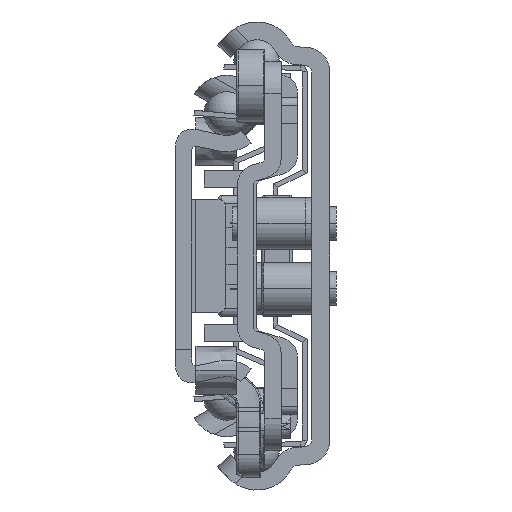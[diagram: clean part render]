
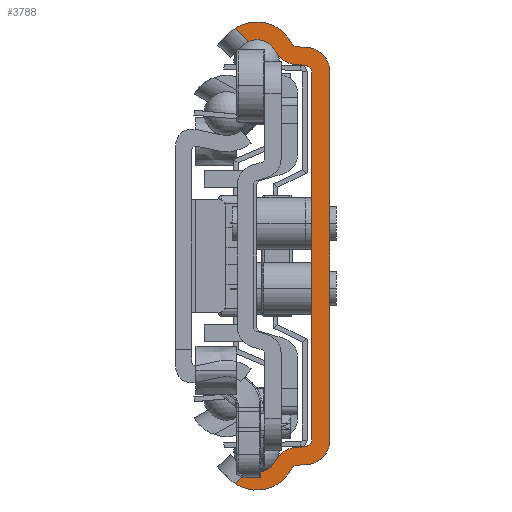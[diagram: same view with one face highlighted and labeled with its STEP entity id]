
A CAD part, left-side view. The second image highlights one B-rep face of the part: STEP entity #3788.
In plain terms, the highlighted planar face has unit normal (-1, 0, 0).
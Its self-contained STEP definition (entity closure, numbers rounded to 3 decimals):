
#1=DIRECTION('',(0.,0.717,-0.697));
#2=VECTOR('',#1,2.305);
#3=CARTESIAN_POINT('',(-200.,9.972,-26.461));
#4=LINE('',#3,#2);
#5=CARTESIAN_POINT('',(-200.,9.,-24.05));
#6=DIRECTION('',(-1.,0.,0.));
#7=DIRECTION('',(0.,0.374,-0.927));
#8=AXIS2_PLACEMENT_3D('',#5,#6,#7);
#10=CARTESIAN_POINT('',(-200.,4.005,-26.582));
#11=DIRECTION('',(-1.,0.,0.));
#12=DIRECTION('',(0.,0.07,0.998));
#13=AXIS2_PLACEMENT_3D('',#10,#11,#12);
#15=DIRECTION('',(0.,-0.998,0.07));
#16=VECTOR('',#15,1.087);
#17=CARTESIAN_POINT('',(-200.,4.214,-23.589));
#18=LINE('',#17,#16);
#19=DIRECTION('',(0.,0.,1.));
#20=VECTOR('',#19,45.032);
#21=CARTESIAN_POINT('',(-200.,2.2,-22.516));
#22=LINE('',#21,#20);
#23=DIRECTION('',(0.,0.998,0.07));
#24=VECTOR('',#23,1.087);
#25=CARTESIAN_POINT('',(-200.,3.13,23.514));
#26=LINE('',#25,#24);
#27=CARTESIAN_POINT('',(-200.,4.005,26.582));
#28=DIRECTION('',(-1.,0.,0.));
#29=DIRECTION('',(0.,0.892,-0.452));
#30=AXIS2_PLACEMENT_3D('',#27,#28,#29);
#32=CARTESIAN_POINT('',(-200.,9.,24.05));
#33=DIRECTION('',(-1.,0.,0.));
#34=DIRECTION('',(0.,-0.892,0.452));
#35=AXIS2_PLACEMENT_3D('',#32,#33,#34);
#37=DIRECTION('',(0.,-0.717,-0.697));
#38=VECTOR('',#37,2.305);
#39=CARTESIAN_POINT('',(-200.,11.624,28.069));
#40=LINE('',#39,#38);
#41=CARTESIAN_POINT('',(-200.,9.,24.05));
#42=DIRECTION('',(1.,0.,0.));
#43=DIRECTION('',(0.,0.547,0.837));
#44=AXIS2_PLACEMENT_3D('',#41,#42,#43);
#46=DIRECTION('',(0.,-0.998,-0.07));
#47=VECTOR('',#46,1.161);
#48=CARTESIAN_POINT('',(-200.,3.949,25.776));
#49=LINE('',#48,#47);
#50=CARTESIAN_POINT('',(-200.,3.,22.702));
#51=DIRECTION('',(-1.,0.,0.));
#52=DIRECTION('',(0.,-1.,0.));
#53=AXIS2_PLACEMENT_3D('',#50,#51,#52);
#55=DIRECTION('',(0.,0.,-1.));
#56=VECTOR('',#55,45.405);
#57=CARTESIAN_POINT('',(-200.,0.,22.702));
#58=LINE('',#57,#56);
#59=CARTESIAN_POINT('',(-200.,3.,-22.702));
#60=DIRECTION('',(-1.,0.,0.));
#61=DIRECTION('',(0.,-0.07,-0.998));
#62=AXIS2_PLACEMENT_3D('',#59,#60,#61);
#64=DIRECTION('',(0.,0.998,-0.07));
#65=VECTOR('',#64,1.161);
#66=CARTESIAN_POINT('',(-200.,2.791,-25.695));
#67=LINE('',#66,#65);
#68=CARTESIAN_POINT('',(-200.,9.,-24.05));
#69=DIRECTION('',(1.,0.,0.));
#70=DIRECTION('',(0.,-0.883,-0.47));
#71=AXIS2_PLACEMENT_3D('',#68,#69,#70);
#79=CARTESIAN_POINT('',(-200.,11.624,-28.069));
#103=CARTESIAN_POINT('',(-200.,9.972,-26.461));
#195=CARTESIAN_POINT('',(-200.,11.624,28.069));
#201=CARTESIAN_POINT('',(-200.,3.879,26.774));
#202=DIRECTION('',(1.,0.,0.));
#203=DIRECTION('',(0.,0.07,-0.998));
#204=AXIS2_PLACEMENT_3D('',#201,#202,#203);
#903=CARTESIAN_POINT('',(-200.,3.879,-26.774));
#904=DIRECTION('',(1.,0.,0.));
#905=DIRECTION('',(0.,0.883,0.47));
#906=AXIS2_PLACEMENT_3D('',#903,#904,#905);
#1674=CARTESIAN_POINT('',(-200.,3.2,-22.516));
#1675=DIRECTION('',(1.,0.,0.));
#1676=DIRECTION('',(0.,-1.,0.));
#1677=AXIS2_PLACEMENT_3D('',#1674,#1675,#1676);
#1692=CARTESIAN_POINT('',(-200.,3.2,22.516));
#1693=DIRECTION('',(1.,0.,0.));
#1694=DIRECTION('',(0.,-0.07,0.998));
#1695=AXIS2_PLACEMENT_3D('',#1692,#1693,#1694);
#1716=CARTESIAN_POINT('',(-200.,9.972,26.461));
#2957=CARTESIAN_POINT('',(-200.,2.2,-22.516));
#2959=VERTEX_POINT('',#2957);
#2961=CARTESIAN_POINT('',(-200.,3.13,-23.514));
#2963=VERTEX_POINT('',#2961);
#2965=CARTESIAN_POINT('',(-200.,3.13,23.514));
#2967=VERTEX_POINT('',#2965);
#2969=CARTESIAN_POINT('',(-200.,2.2,22.516));
#2971=VERTEX_POINT('',#2969);
#2973=CARTESIAN_POINT('',(-200.,3.949,25.776));
#2975=VERTEX_POINT('',#2973);
#2977=CARTESIAN_POINT('',(-200.,4.762,26.304));
#2979=VERTEX_POINT('',#2977);
#2981=CARTESIAN_POINT('',(-200.,4.762,-26.304));
#2983=VERTEX_POINT('',#2981);
#2985=CARTESIAN_POINT('',(-200.,3.949,-25.776));
#2987=VERTEX_POINT('',#2985);
#2989=CARTESIAN_POINT('',(-200.,4.214,-23.589));
#2990=CARTESIAN_POINT('',(-200.,6.681,-25.226));
#2991=VERTEX_POINT('',#2989);
#2992=VERTEX_POINT('',#2990);
#2997=CARTESIAN_POINT('',(-200.,6.681,25.226));
#2998=CARTESIAN_POINT('',(-200.,4.214,23.589));
#2999=VERTEX_POINT('',#2997);
#3000=VERTEX_POINT('',#2998);
#3005=CARTESIAN_POINT('',(-200.,0.,22.702));
#3006=CARTESIAN_POINT('',(-200.,2.791,25.695));
#3007=VERTEX_POINT('',#3005);
#3008=VERTEX_POINT('',#3006);
#3013=CARTESIAN_POINT('',(-200.,2.791,-25.695));
#3014=CARTESIAN_POINT('',(-200.,0.,-22.702));
#3015=VERTEX_POINT('',#3013);
#3016=VERTEX_POINT('',#3014);
#3363=VERTEX_POINT('',#79);
#3371=VERTEX_POINT('',#103);
#3372=VERTEX_POINT('',#1716);
#3380=VERTEX_POINT('',#195);
#3741=CARTESIAN_POINT('',(-200.,0.,0.));
#3742=DIRECTION('',(1.,0.,0.));
#3743=DIRECTION('',(0.,-1.,0.));
#3744=AXIS2_PLACEMENT_3D('',#3741,#3742,#3743);
#3745=PLANE('',#3744);
#3747=ORIENTED_EDGE('',*,*,#3746,.F.);
#3749=ORIENTED_EDGE('',*,*,#3748,.T.);
#3751=ORIENTED_EDGE('',*,*,#3750,.F.);
#3753=ORIENTED_EDGE('',*,*,#3752,.T.);
#3755=ORIENTED_EDGE('',*,*,#3754,.F.);
#3757=ORIENTED_EDGE('',*,*,#3756,.T.);
#3759=ORIENTED_EDGE('',*,*,#3758,.F.);
#3761=ORIENTED_EDGE('',*,*,#3760,.T.);
#3763=ORIENTED_EDGE('',*,*,#3762,.F.);
#3765=ORIENTED_EDGE('',*,*,#3764,.T.);
#3767=ORIENTED_EDGE('',*,*,#3766,.F.);
#3769=ORIENTED_EDGE('',*,*,#3768,.T.);
#3771=ORIENTED_EDGE('',*,*,#3770,.F.);
#3773=ORIENTED_EDGE('',*,*,#3772,.T.);
#3775=ORIENTED_EDGE('',*,*,#3774,.F.);
#3777=ORIENTED_EDGE('',*,*,#3776,.T.);
#3779=ORIENTED_EDGE('',*,*,#3778,.F.);
#3781=ORIENTED_EDGE('',*,*,#3780,.T.);
#3783=ORIENTED_EDGE('',*,*,#3782,.F.);
#3785=ORIENTED_EDGE('',*,*,#3784,.T.);
#3786=EDGE_LOOP('',(#3747,#3749,#3751,#3753,#3755,#3757,#3759,#3761,#3763,#3765,
#3767,#3769,#3771,#3773,#3775,#3777,#3779,#3781,#3783,#3785));
#3787=FACE_OUTER_BOUND('',#3786,.F.);
#3788=ADVANCED_FACE('',(#3787),#3745,.F.);
#9=CIRCLE('',#8,2.6);
#14=CIRCLE('',#13,3.);
#31=CIRCLE('',#30,3.);
#36=CIRCLE('',#35,2.6);
#45=CIRCLE('',#44,4.8);
#54=CIRCLE('',#53,3.);
#63=CIRCLE('',#62,3.);
#72=CIRCLE('',#71,4.8);
#205=CIRCLE('',#204,1.);
#907=CIRCLE('',#906,1.);
#1678=CIRCLE('',#1677,1.);
#1696=CIRCLE('',#1695,1.);
#3746=EDGE_CURVE('',#3371,#3363,#4,.T.);
#3748=EDGE_CURVE('',#3371,#2992,#9,.T.);
#3750=EDGE_CURVE('',#2991,#2992,#14,.T.);
#3752=EDGE_CURVE('',#2991,#2963,#18,.T.);
#3754=EDGE_CURVE('',#2959,#2963,#1678,.T.);
#3756=EDGE_CURVE('',#2959,#2971,#22,.T.);
#3758=EDGE_CURVE('',#2967,#2971,#1696,.T.);
#3760=EDGE_CURVE('',#2967,#3000,#26,.T.);
#3762=EDGE_CURVE('',#2999,#3000,#31,.T.);
#3764=EDGE_CURVE('',#2999,#3372,#36,.T.);
#3766=EDGE_CURVE('',#3380,#3372,#40,.T.);
#3768=EDGE_CURVE('',#3380,#2979,#45,.T.);
#3770=EDGE_CURVE('',#2975,#2979,#205,.T.);
#3772=EDGE_CURVE('',#2975,#3008,#49,.T.);
#3774=EDGE_CURVE('',#3007,#3008,#54,.T.);
#3776=EDGE_CURVE('',#3007,#3016,#58,.T.);
#3778=EDGE_CURVE('',#3015,#3016,#63,.T.);
#3780=EDGE_CURVE('',#3015,#2987,#67,.T.);
#3782=EDGE_CURVE('',#2983,#2987,#907,.T.);
#3784=EDGE_CURVE('',#2983,#3363,#72,.T.);
